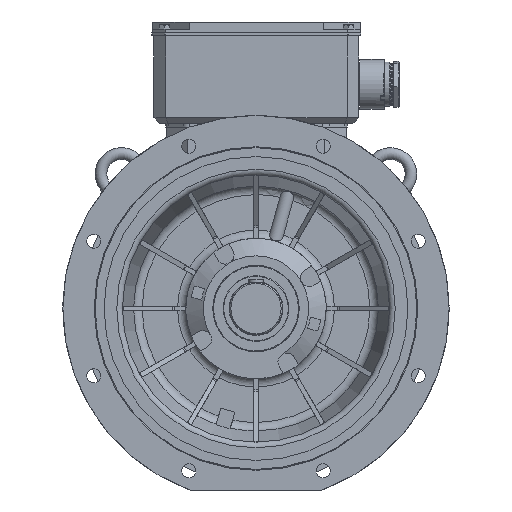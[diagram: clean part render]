
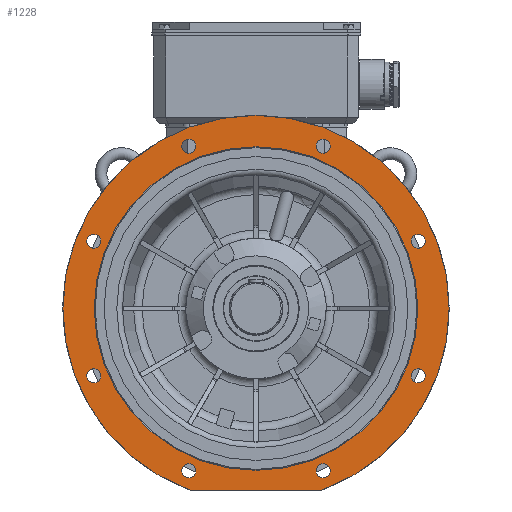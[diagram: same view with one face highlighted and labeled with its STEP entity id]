
A CAD part, front view. The second image highlights one B-rep face of the part: STEP entity #1228.
In plain terms, the highlighted planar face has unit normal (0, -1, 0).
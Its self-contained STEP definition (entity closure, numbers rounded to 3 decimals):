
#1228 = ADVANCED_FACE( '', ( #3563, #3564, #3565, #3566, #3567, #3568, #3569, #3570, #3571, #3572 ), #3573, .F. );
#3563 = FACE_OUTER_BOUND( '', #9730, .T. );
#3564 = FACE_BOUND( '', #9731, .T. );
#3565 = FACE_BOUND( '', #9732, .T. );
#3566 = FACE_BOUND( '', #9733, .T. );
#3567 = FACE_BOUND( '', #9734, .T. );
#3568 = FACE_BOUND( '', #9735, .T. );
#3569 = FACE_BOUND( '', #9736, .T. );
#3570 = FACE_BOUND( '', #9737, .T. );
#3571 = FACE_BOUND( '', #9738, .T. );
#3572 = FACE_BOUND( '', #9739, .T. );
#3573 = PLANE( '', #9740 );
#9730 = EDGE_LOOP( '', ( #19240, #19241, #19242, #19243 ) );
#9731 = EDGE_LOOP( '', ( #19244 ) );
#9732 = EDGE_LOOP( '', ( #19245 ) );
#9733 = EDGE_LOOP( '', ( #19246 ) );
#9734 = EDGE_LOOP( '', ( #19247 ) );
#9735 = EDGE_LOOP( '', ( #19248 ) );
#9736 = EDGE_LOOP( '', ( #19249 ) );
#9737 = EDGE_LOOP( '', ( #19250 ) );
#9738 = EDGE_LOOP( '', ( #19251 ) );
#9739 = EDGE_LOOP( '', ( #19252 ) );
#9740 = AXIS2_PLACEMENT_3D( '', #19253, #19254, #19255 );
#19240 = ORIENTED_EDGE( '', *, *, #21020, .T. );
#19241 = ORIENTED_EDGE( '', *, *, #23235, .F. );
#19242 = ORIENTED_EDGE( '', *, *, #22846, .T. );
#19243 = ORIENTED_EDGE( '', *, *, #21011, .F. );
#19244 = ORIENTED_EDGE( '', *, *, #21559, .F. );
#19245 = ORIENTED_EDGE( '', *, *, #21555, .F. );
#19246 = ORIENTED_EDGE( '', *, *, #21557, .F. );
#19247 = ORIENTED_EDGE( '', *, *, #23743, .F. );
#19248 = ORIENTED_EDGE( '', *, *, #23744, .F. );
#19249 = ORIENTED_EDGE( '', *, *, #21171, .F. );
#19250 = ORIENTED_EDGE( '', *, *, #21772, .F. );
#19251 = ORIENTED_EDGE( '', *, *, #21764, .F. );
#19252 = ORIENTED_EDGE( '', *, *, #23263, .F. );
#19253 = CARTESIAN_POINT( '', ( 0., -104.997, 276.4 ) );
#19254 = DIRECTION( '', ( 0., 1., 0. ) );
#19255 = DIRECTION( '', ( 1., 0., 0. ) );
#21011 = EDGE_CURVE( '', #24893, #24894, #24895, .T. );
#21020 = EDGE_CURVE( '', #24893, #24910, #24911, .F. );
#21171 = EDGE_CURVE( '', #25199, #25199, #25200, .F. );
#21555 = EDGE_CURVE( '', #25919, #25919, #25920, .F. );
#21557 = EDGE_CURVE( '', #25923, #25923, #25924, .F. );
#21559 = EDGE_CURVE( '', #25927, #25927, #25928, .F. );
#21764 = EDGE_CURVE( '', #26311, #26311, #26312, .F. );
#21772 = EDGE_CURVE( '', #26327, #26327, #26328, .F. );
#22846 = EDGE_CURVE( '', #28199, #24894, #28200, .F. );
#23235 = EDGE_CURVE( '', #28199, #24910, #28840, .T. );
#23263 = EDGE_CURVE( '', #28880, #28880, #28881, .F. );
#23743 = EDGE_CURVE( '', #29587, #29587, #29588, .F. );
#23744 = EDGE_CURVE( '', #29589, #29589, #29590, .F. );
#24893 = VERTEX_POINT( '', #30482 );
#24894 = VERTEX_POINT( '', #30483 );
#24895 = CIRCLE( '', #30484, 330. );
#24910 = VERTEX_POINT( '', #30537 );
#24911 = CIRCLE( '', #30538, 3. );
#25199 = VERTEX_POINT( '', #31144 );
#25200 = CIRCLE( '', #31145, 12. );
#25919 = VERTEX_POINT( '', #33555 );
#25920 = CIRCLE( '', #33556, 12. );
#25923 = VERTEX_POINT( '', #33559 );
#25924 = CIRCLE( '', #33560, 12. );
#25927 = VERTEX_POINT( '', #33563 );
#25928 = CIRCLE( '', #33564, 12. );
#26311 = VERTEX_POINT( '', #34391 );
#26312 = CIRCLE( '', #34392, 12. );
#26327 = VERTEX_POINT( '', #34410 );
#26328 = CIRCLE( '', #34411, 12. );
#28199 = VERTEX_POINT( '', #39158 );
#28200 = CIRCLE( '', #39159, 3. );
#28840 = LINE( '', #40826, #40827 );
#28880 = VERTEX_POINT( '', #40953 );
#28881 = CIRCLE( '', #40954, 276.4 );
#29587 = VERTEX_POINT( '', #43006 );
#29588 = CIRCLE( '', #43007, 12. );
#29589 = VERTEX_POINT( '', #43008 );
#29590 = CIRCLE( '', #43009, 12. );
#30482 = CARTESIAN_POINT( '', ( -113.639, -104.997, -309.817 ) );
#30483 = CARTESIAN_POINT( '', ( 113.639, -104.997, -309.817 ) );
#30484 = AXIS2_PLACEMENT_3D( '', #44557, #44558, #44559 );
#30537 = CARTESIAN_POINT( '', ( -112.606, -104.997, -310. ) );
#30538 = AXIS2_PLACEMENT_3D( '', #44568, #44569, #44570 );
#31144 = CARTESIAN_POINT( '', ( 277.164, -104.997, 126.805 ) );
#31145 = AXIS2_PLACEMENT_3D( '', #44761, #44762, #44763 );
#33555 = CARTESIAN_POINT( '', ( -277.164, -104.997, -102.805 ) );
#33556 = AXIS2_PLACEMENT_3D( '', #45279, #45280, #45281 );
#33559 = CARTESIAN_POINT( '', ( -114.805, -104.997, -265.164 ) );
#33560 = AXIS2_PLACEMENT_3D( '', #45285, #45286, #45287 );
#33563 = CARTESIAN_POINT( '', ( -277.164, -104.997, 126.805 ) );
#33564 = AXIS2_PLACEMENT_3D( '', #45291, #45292, #45293 );
#34391 = CARTESIAN_POINT( '', ( -114.805, -104.997, 289.164 ) );
#34392 = AXIS2_PLACEMENT_3D( '', #45596, #45597, #45598 );
#34410 = CARTESIAN_POINT( '', ( 114.805, -104.997, 289.164 ) );
#34411 = AXIS2_PLACEMENT_3D( '', #45614, #45615, #45616 );
#39158 = CARTESIAN_POINT( '', ( 112.606, -104.997, -310. ) );
#39159 = AXIS2_PLACEMENT_3D( '', #47131, #47132, #47133 );
#40826 = CARTESIAN_POINT( '', ( -113.137, -104.997, -310. ) );
#40827 = VECTOR( '', #47645, 1000. );
#40953 = CARTESIAN_POINT( '', ( 0., -104.997, 276.4 ) );
#40954 = AXIS2_PLACEMENT_3D( '', #47684, #47685, #47686 );
#43006 = CARTESIAN_POINT( '', ( 114.805, -104.997, -265.164 ) );
#43007 = AXIS2_PLACEMENT_3D( '', #48318, #48319, #48320 );
#43008 = CARTESIAN_POINT( '', ( 277.164, -104.997, -102.805 ) );
#43009 = AXIS2_PLACEMENT_3D( '', #48321, #48322, #48323 );
#44557 = CARTESIAN_POINT( '', ( 0., -104.997, 0. ) );
#44558 = DIRECTION( '', ( 0., 1., 0. ) );
#44559 = DIRECTION( '', ( 0., 0., 1. ) );
#44568 = CARTESIAN_POINT( '', ( -112.606, -104.997, -307. ) );
#44569 = DIRECTION( '', ( 0., 1., 0. ) );
#44570 = DIRECTION( '', ( 0., 0., 1. ) );
#44761 = CARTESIAN_POINT( '', ( 277.164, -104.997, 114.805 ) );
#44762 = DIRECTION( '', ( 0., 1., 0. ) );
#44763 = DIRECTION( '', ( 0., 0., 1. ) );
#45279 = CARTESIAN_POINT( '', ( -277.164, -104.997, -114.805 ) );
#45280 = DIRECTION( '', ( 0., 1., 0. ) );
#45281 = DIRECTION( '', ( 0., 0., 1. ) );
#45285 = CARTESIAN_POINT( '', ( -114.805, -104.997, -277.164 ) );
#45286 = DIRECTION( '', ( 0., 1., 0. ) );
#45287 = DIRECTION( '', ( 0., 0., 1. ) );
#45291 = CARTESIAN_POINT( '', ( -277.164, -104.997, 114.805 ) );
#45292 = DIRECTION( '', ( 0., 1., 0. ) );
#45293 = DIRECTION( '', ( 0., 0., 1. ) );
#45596 = CARTESIAN_POINT( '', ( -114.805, -104.997, 277.164 ) );
#45597 = DIRECTION( '', ( 0., 1., 0. ) );
#45598 = DIRECTION( '', ( 0., 0., 1. ) );
#45614 = CARTESIAN_POINT( '', ( 114.805, -104.997, 277.164 ) );
#45615 = DIRECTION( '', ( 0., 1., 0. ) );
#45616 = DIRECTION( '', ( 0., 0., 1. ) );
#47131 = CARTESIAN_POINT( '', ( 112.606, -104.997, -307. ) );
#47132 = DIRECTION( '', ( 0., 1., 0. ) );
#47133 = DIRECTION( '', ( 0., 0., 1. ) );
#47645 = DIRECTION( '', ( -1., 0., 0. ) );
#47684 = CARTESIAN_POINT( '', ( 0., -104.997, 0. ) );
#47685 = DIRECTION( '', ( 0., 1., 0. ) );
#47686 = DIRECTION( '', ( 0., 0., 1. ) );
#48318 = CARTESIAN_POINT( '', ( 114.805, -104.997, -277.164 ) );
#48319 = DIRECTION( '', ( 0., 1., 0. ) );
#48320 = DIRECTION( '', ( 0., 0., 1. ) );
#48321 = CARTESIAN_POINT( '', ( 277.164, -104.997, -114.805 ) );
#48322 = DIRECTION( '', ( 0., 1., 0. ) );
#48323 = DIRECTION( '', ( 0., 0., 1. ) );
